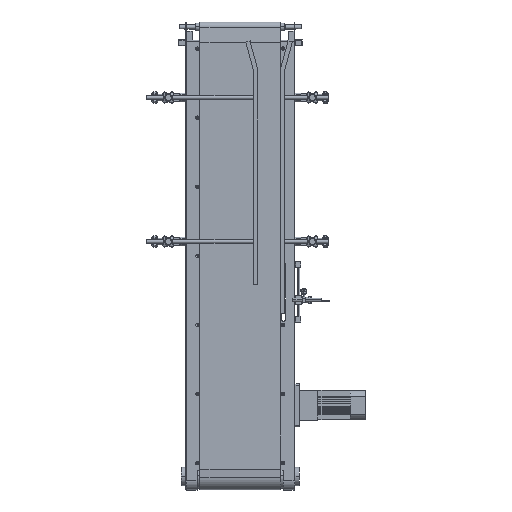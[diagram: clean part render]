
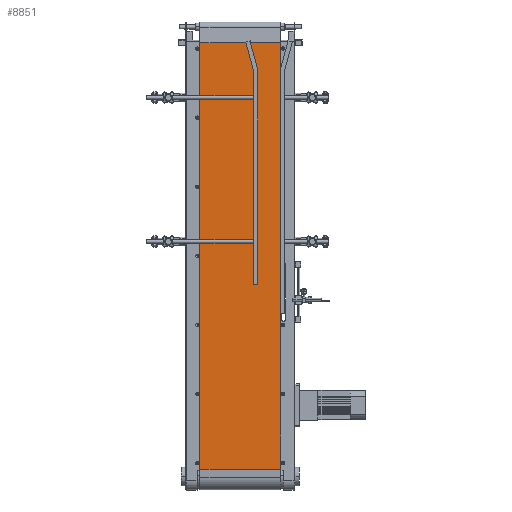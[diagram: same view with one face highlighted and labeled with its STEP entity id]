
A CAD part, left-side view. The second image highlights one B-rep face of the part: STEP entity #8851.
In plain terms, the highlighted planar face has unit normal (-1, 0, 0) as drawn and (0, 0, -1) by its records, which use the part's own axes.
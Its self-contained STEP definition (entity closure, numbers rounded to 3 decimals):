
#5941=PLANE('',#47514);
#8851=ADVANCED_FACE('',(#11237),#5941,.F.);
#11237=FACE_OUTER_BOUND('',#13760,.T.);
#13760=EDGE_LOOP('',(#27449,#27450,#27451,#27452));
#16760=LINE('',#69335,#19681);
#16762=LINE('',#69339,#19683);
#16763=LINE('',#69341,#19684);
#16764=LINE('',#69343,#19685);
#19681=VECTOR('',#54659,1.);
#19683=VECTOR('',#54663,1.);
#19684=VECTOR('',#54664,1.);
#19685=VECTOR('',#54665,1.);
#27449=ORIENTED_EDGE('',*,*,#40786,.T.);
#27450=ORIENTED_EDGE('',*,*,#40787,.F.);
#27451=ORIENTED_EDGE('',*,*,#40788,.F.);
#27452=ORIENTED_EDGE('',*,*,#40784,.T.);
#35687=VERTEX_POINT('',#69334);
#35688=VERTEX_POINT('',#69336);
#35689=VERTEX_POINT('',#69340);
#35690=VERTEX_POINT('',#69342);
#40784=EDGE_CURVE('',#35688,#35687,#16760,.T.);
#40786=EDGE_CURVE('',#35687,#35689,#16762,.T.);
#40787=EDGE_CURVE('',#35690,#35689,#16763,.T.);
#40788=EDGE_CURVE('',#35688,#35690,#16764,.T.);
#47514=AXIS2_PLACEMENT_3D('',#69344,#54666,#54667);
#54659=DIRECTION('',(0.,-1.,0.));
#54663=DIRECTION('',(-1.,0.,0.));
#54664=DIRECTION('',(0.,-1.,0.));
#54665=DIRECTION('',(-1.,0.,0.));
#54666=DIRECTION('',(0.,0.,1.));
#54667=DIRECTION('',(-1.,0.,0.));
#69334=CARTESIAN_POINT('',(1462.616,0.,-18.37));
#69335=CARTESIAN_POINT('',(1462.616,280.,-18.37));
#69336=CARTESIAN_POINT('',(1462.616,280.,-18.37));
#69339=CARTESIAN_POINT('',(-17.492,0.,-18.37));
#69340=CARTESIAN_POINT('',(-17.588,0.,-18.37));
#69341=CARTESIAN_POINT('',(-17.588,280.,-18.37));
#69342=CARTESIAN_POINT('',(-17.588,280.,-18.37));
#69343=CARTESIAN_POINT('',(-17.492,280.,-18.37));
#69344=CARTESIAN_POINT('',(-17.492,280.,-18.37));
